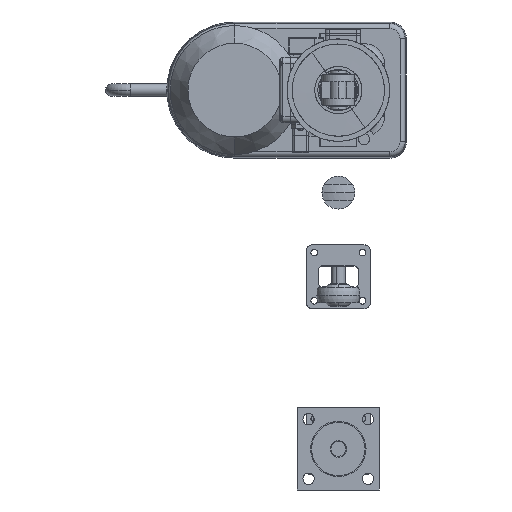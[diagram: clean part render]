
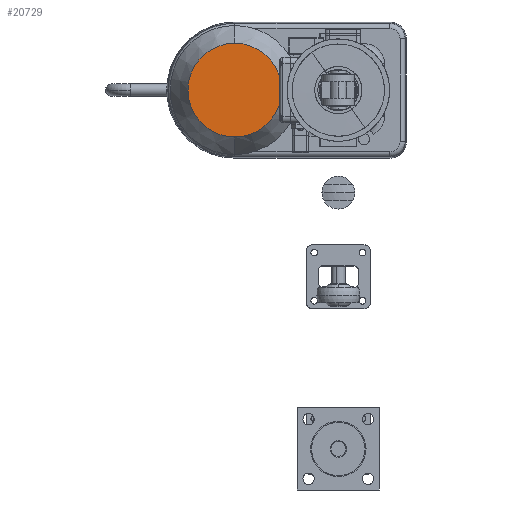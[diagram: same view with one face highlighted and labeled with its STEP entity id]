
A CAD part, left-side view. The second image highlights one B-rep face of the part: STEP entity #20729.
In plain terms, the highlighted planar face has unit normal (-1, 0, 0) as drawn and (0, 0, -1) by its records, which use the part's own axes.
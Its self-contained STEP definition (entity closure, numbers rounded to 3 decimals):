
#3848 = VERTEX_POINT ( 'NONE', #65641 ) ;
#3855 = VERTEX_POINT ( 'NONE', #65657 ) ;
#6161 = CIRCLE ( 'NONE', #42220, 45.679 ) ;
#6186 = CIRCLE ( 'NONE', #42249, 45.679 ) ;
#20729 = ADVANCED_FACE ( 'NONE', ( #34026 ), #33316, .F. ) ;
#33312 = CARTESIAN_POINT ( 'NONE',  ( -16.958, 112.38, -262.569 ) ) ;
#33316 = PLANE ( 'NONE',  #35428 ) ;
#33322 = DIRECTION ( 'NONE',  ( 0., 0., 1. ) ) ;
#33323 = DIRECTION ( 'NONE',  ( 1., 0., 0. ) ) ;
#34026 = FACE_OUTER_BOUND ( 'NONE', #47860, .T. ) ;
#35428 = AXIS2_PLACEMENT_3D ( 'NONE', #33312, #33322, #33323 ) ;
#42220 = AXIS2_PLACEMENT_3D ( 'NONE', #65851, #65852, #65853 ) ;
#42249 = AXIS2_PLACEMENT_3D ( 'NONE', #65924, #65925, #65927 ) ;
#47860 = EDGE_LOOP ( 'NONE', ( #62216, #62214 ) ) ;
#54492 = EDGE_CURVE ( 'NONE', #3848, #3855, #6161, .T. ) ;
#54511 = EDGE_CURVE ( 'NONE', #3855, #3848, #6186, .T. ) ;
#62214 = ORIENTED_EDGE ( 'NONE', *, *, #54511, .F. ) ;
#62216 = ORIENTED_EDGE ( 'NONE', *, *, #54492, .F. ) ;
#65641 = CARTESIAN_POINT ( 'NONE',  ( 28.722, 66.701, -262.569 ) ) ;
#65657 = CARTESIAN_POINT ( 'NONE',  ( -62.637, 66.701, -262.569 ) ) ;
#65851 = CARTESIAN_POINT ( 'NONE',  ( -16.958, 66.701, -262.569 ) ) ;
#65852 = DIRECTION ( 'NONE',  ( 0., 0., 1. ) ) ;
#65853 = DIRECTION ( 'NONE',  ( 1., 0., 0. ) ) ;
#65924 = CARTESIAN_POINT ( 'NONE',  ( -16.958, 66.701, -262.569 ) ) ;
#65925 = DIRECTION ( 'NONE',  ( 0., 0., 1. ) ) ;
#65927 = DIRECTION ( 'NONE',  ( 1., 0., 0. ) ) ;
